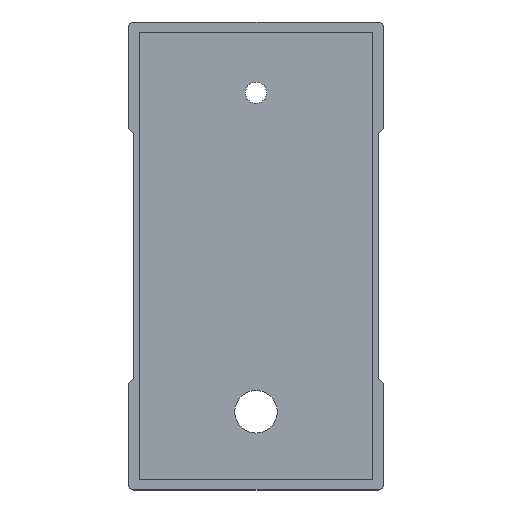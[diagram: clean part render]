
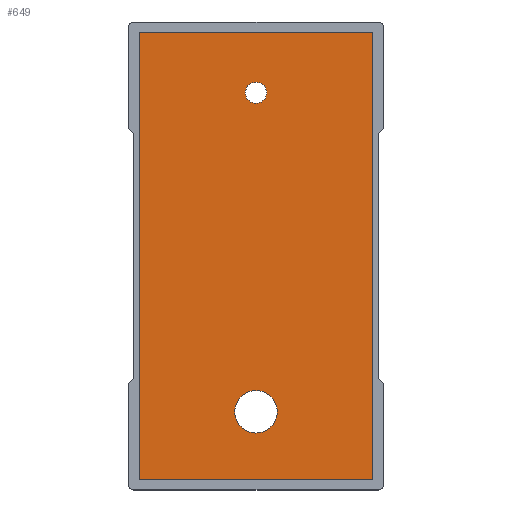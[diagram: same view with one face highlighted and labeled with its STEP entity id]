
A CAD part, top view. The second image highlights one B-rep face of the part: STEP entity #649.
In plain terms, the highlighted planar face has unit normal (0, 0, 1).
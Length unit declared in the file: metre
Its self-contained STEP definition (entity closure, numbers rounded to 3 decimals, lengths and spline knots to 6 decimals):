
#28=PLANE('',#699);
#47=LINE('',#959,#113);
#51=LINE('',#967,#117);
#54=LINE('',#973,#120);
#56=LINE('',#976,#122);
#113=VECTOR('',#770,1.);
#117=VECTOR('',#776,1.);
#120=VECTOR('',#781,1.);
#122=VECTOR('',#785,1.);
#199=ORIENTED_EDGE('',*,*,#380,.F.);
#200=ORIENTED_EDGE('',*,*,#371,.F.);
#201=ORIENTED_EDGE('',*,*,#375,.F.);
#202=ORIENTED_EDGE('',*,*,#378,.F.);
#203=ORIENTED_EDGE('',*,*,#365,.T.);
#204=ORIENTED_EDGE('',*,*,#368,.T.);
#365=EDGE_CURVE('',#458,#458,#514,.F.);
#368=EDGE_CURVE('',#460,#460,#516,.F.);
#371=EDGE_CURVE('',#463,#464,#47,.T.);
#375=EDGE_CURVE('',#466,#463,#51,.T.);
#378=EDGE_CURVE('',#468,#466,#54,.T.);
#380=EDGE_CURVE('',#464,#468,#56,.T.);
#458=VERTEX_POINT('',#945);
#460=VERTEX_POINT('',#951);
#463=VERTEX_POINT('',#958);
#464=VERTEX_POINT('',#960);
#466=VERTEX_POINT('',#966);
#468=VERTEX_POINT('',#972);
#514=CIRCLE('',#691,0.0002);
#516=CIRCLE('',#694,0.0001);
#539=EDGE_LOOP('',(#199,#200,#201,#202));
#540=EDGE_LOOP('',(#203));
#541=EDGE_LOOP('',(#204));
#585=FACE_BOUND('',#539,.T.);
#586=FACE_BOUND('',#540,.T.);
#587=FACE_BOUND('',#541,.T.);
#649=ADVANCED_FACE('',(#585,#586,#587),#28,.F.);
#691=AXIS2_PLACEMENT_3D('',#946,#757,#758);
#694=AXIS2_PLACEMENT_3D('',#952,#764,#765);
#699=AXIS2_PLACEMENT_3D('',#977,#786,#787);
#757=DIRECTION('',(0.,0.,1.));
#758=DIRECTION('',(0.,1.,0.));
#764=DIRECTION('',(0.,0.,1.));
#765=DIRECTION('',(0.,1.,0.));
#770=DIRECTION('',(1.,0.,0.));
#776=DIRECTION('',(0.,1.,0.));
#781=DIRECTION('',(-1.,0.,0.));
#785=DIRECTION('',(0.,-1.,0.));
#786=DIRECTION('',(0.,0.,-1.));
#787=DIRECTION('',(0.,-1.,0.));
#945=CARTESIAN_POINT('',(-0.0384,-0.001665,-0.0306));
#946=CARTESIAN_POINT('',(-0.0384,-0.001465,-0.0306));
#951=CARTESIAN_POINT('',(-0.0384,0.001435,-0.0306));
#952=CARTESIAN_POINT('',(-0.0384,0.001535,-0.0306));
#958=CARTESIAN_POINT('',(-0.0395,0.0021,-0.0306));
#959=CARTESIAN_POINT('',(-0.0395,0.0021,-0.0306));
#960=CARTESIAN_POINT('',(-0.0373,0.0021,-0.0306));
#966=CARTESIAN_POINT('',(-0.0395,-0.0021,-0.0306));
#967=CARTESIAN_POINT('',(-0.0395,-0.0021,-0.0306));
#972=CARTESIAN_POINT('',(-0.0373,-0.0021,-0.0306));
#973=CARTESIAN_POINT('',(-0.0373,-0.0021,-0.0306));
#976=CARTESIAN_POINT('',(-0.0373,0.0021,-0.0306));
#977=CARTESIAN_POINT('',(-0.0384,0.,-0.0306));
